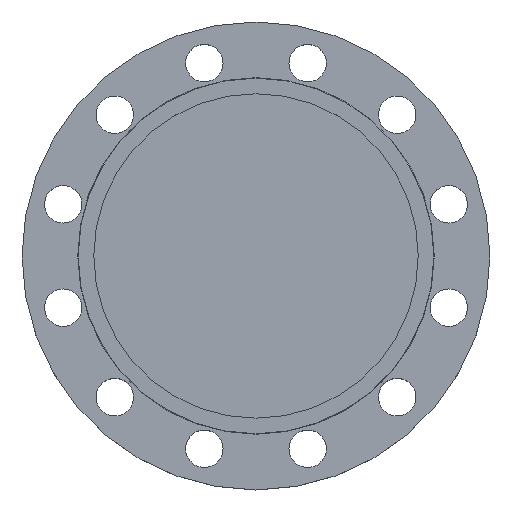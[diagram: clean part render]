
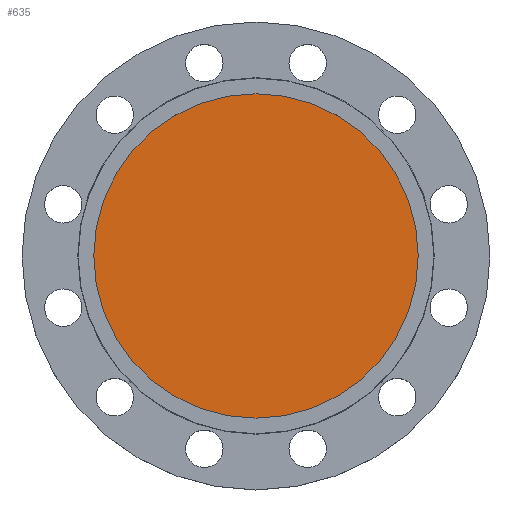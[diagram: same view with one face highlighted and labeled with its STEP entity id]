
A CAD part, top view. The second image highlights one B-rep face of the part: STEP entity #635.
In plain terms, the highlighted planar face has unit normal (0, 0, 1).
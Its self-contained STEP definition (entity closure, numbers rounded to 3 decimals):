
#36 = CIRCLE ( 'NONE', #39, 130. ) ;
#39 = AXIS2_PLACEMENT_3D ( 'NONE', #663, #973, #136 ) ;
#68 = AXIS2_PLACEMENT_3D ( 'NONE', #103, #547, #892 ) ;
#73 = DIRECTION ( 'NONE',  ( 0., 0., -1. ) ) ;
#103 = CARTESIAN_POINT ( 'NONE',  ( 130., 0., -4.5 ) ) ;
#136 = DIRECTION ( 'NONE',  ( -1., 0., 0. ) ) ;
#269 = CIRCLE ( 'NONE', #270, 130. ) ;
#270 = AXIS2_PLACEMENT_3D ( 'NONE', #938, #73, #516 ) ;
#320 = ORIENTED_EDGE ( 'NONE', *, *, #856, .F. ) ;
#322 = ORIENTED_EDGE ( 'NONE', *, *, #733, .F. ) ;
#388 = CARTESIAN_POINT ( 'NONE',  ( -130., 0., -4.5 ) ) ;
#408 = VERTEX_POINT ( 'NONE', #574 ) ;
#497 = VERTEX_POINT ( 'NONE', #388 ) ;
#516 = DIRECTION ( 'NONE',  ( -1., 0., 0. ) ) ;
#547 = DIRECTION ( 'NONE',  ( 0., 0., 1. ) ) ;
#574 = CARTESIAN_POINT ( 'NONE',  ( 130., 0., -4.5 ) ) ;
#635 = ADVANCED_FACE ( 'NONE', ( #636 ), #959, .T. ) ;
#636 = FACE_OUTER_BOUND ( 'NONE', #1172, .T. ) ;
#663 = CARTESIAN_POINT ( 'NONE',  ( 0., 0., -4.5 ) ) ;
#733 = EDGE_CURVE ( 'NONE', #408, #497, #36, .T. ) ;
#856 = EDGE_CURVE ( 'NONE', #497, #408, #269, .T. ) ;
#892 = DIRECTION ( 'NONE',  ( 1., 0., 0. ) ) ;
#938 = CARTESIAN_POINT ( 'NONE',  ( 0., 0., -4.5 ) ) ;
#959 = PLANE ( 'NONE',  #68 ) ;
#973 = DIRECTION ( 'NONE',  ( 0., 0., -1. ) ) ;
#1172 = EDGE_LOOP ( 'NONE', ( #320, #322 ) ) ;
